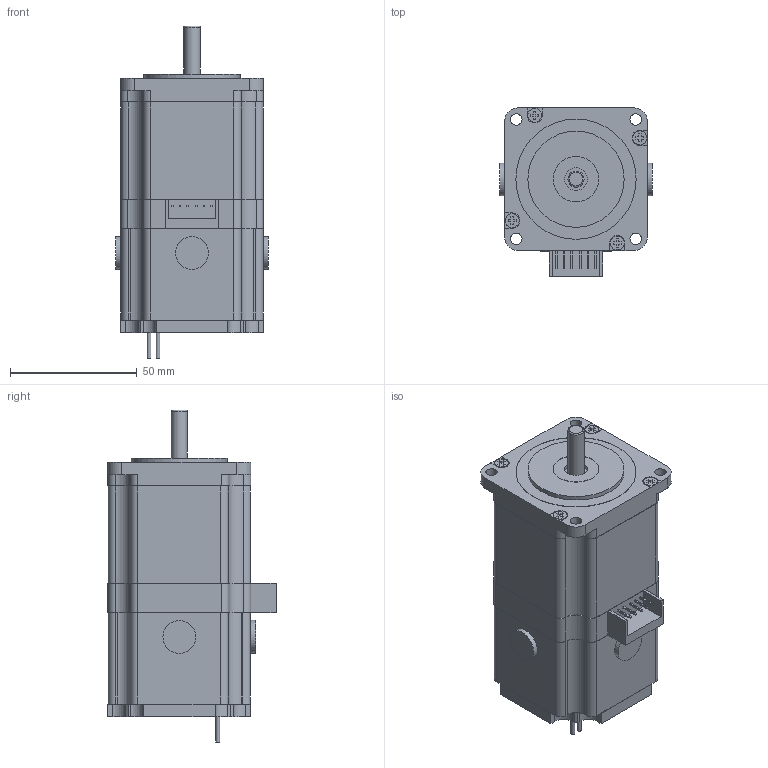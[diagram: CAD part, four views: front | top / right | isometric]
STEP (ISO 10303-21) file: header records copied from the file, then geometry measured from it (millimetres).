
FILE_DESCRIPTION(/* description */ (''),/* implementation_level */ '2;1');
FILE_NAME(/* name */ 'UB57D24-D30-655A.stp',/* time_stamp */ '2018-08-20T10:47:03+08:00',/* author */ (''),/* organization */ (''),/* preprocessor_version */ 'ST-DEVELOPER v11',/* originating_system */ 'SIEMENS UGS NX 6.0',/* authorisation */ '');
FILE_SCHEMA (('CONFIG_CONTROL_DESIGN'));
Length unit declared in the file: millimetre
Products named in the file (1): UB57D24-D30-655A
Bounding box: 60.2 x 66.4 x 131.1 mm (x, y, z)
Volume: 292159.2 mm3; surface area: 30028.9 mm2
Topology: 1 solids, 3 shells, 274 faces, 716 edges, 477 vertices
Faces by surface type: plane 187, cylinder 86, torus 1
Full cylindrical faces by diameter (mm): 1.5 x2, 4.5 x4, 5.5 x4, 6 x1, 6.35 x2, 9 x2, 13 x3, 13.226 x1, 18 x1, 38 x1, 47.5 x1
Entity records: 8316 total; most frequent: CARTESIAN_POINT 1429, DIRECTION 1408, ORIENTED_EDGE 1370, EDGE_CURVE 685, LINE 512, VECTOR 512, VERTEX_POINT 469, AXIS2_PLACEMENT_3D 448
